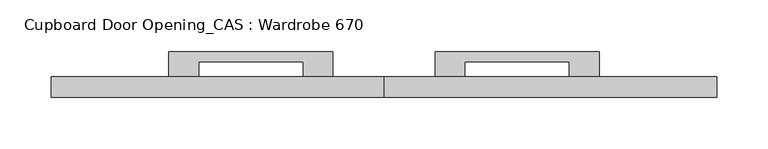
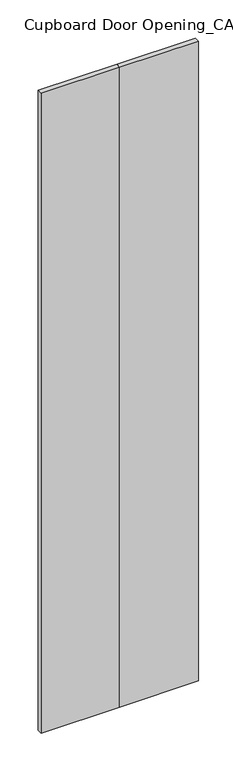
"""IFC4 building model written with IfcOpenShell, lengths in millimetres: furniture geometry, Cupboard Door Opening_CAS : Wardrobe 670."""

from ifc_helpers import new_model, si_unit, frame, origin, origin_with_axes, place, context, project, spatial, polyline, outline, extrude, source, transform, mapped, element, save


def cupboard_door_opening_cas_wardrobe_670_f0b867a1(model_context):
    return source(origin(), model_context, "Body", "SweptSolid", [
        extrude(outline(polyline([(175.0, 84.0), (335.0, 84.0), (335.0, 59.0), (306.0, 59.0), (306.0, 74.0), (204.0, 74.0), (204.0, 59.0), (175.0, 59.0), (175.0, 84.0)])), frame((0.0, 0.0, 987.5), z_axis=(0.0, 0.0, 1.0), x_axis=(1.0, 0.0, 0.0)), (0.0, 0.0, 1.0), 15.0),
        extrude(outline(polyline([(450.0, 59.0), (450.0, 39.0), (125.0, 39.0), (125.0, 59.0), (450.0, 59.0)])), origin_with_axes(), (0.0, 0.0, 1.0), 2795.0),
        extrude(outline(polyline([(75.0, 84.0), (75.0, 59.0), (46.0, 59.0), (46.0, 74.0), (-56.0, 74.0), (-56.0, 59.0), (-85.0, 59.0), (-85.0, 84.0), (75.0, 84.0)])), frame((0.0, 0.0, 987.5), z_axis=(0.0, 0.0, 1.0), x_axis=(1.0, 0.0, 0.0)), (0.0, 0.0, 1.0), 15.0),
        extrude(outline(polyline([(-200.0, 59.0), (125.0, 59.0), (125.0, 39.0), (-200.0, 39.0), (-200.0, 59.0)])), origin_with_axes(), (0.0, 0.0, 1.0), 2795.0),
    ])


if __name__ == "__main__":
    model = new_model("IFC4")
    model_context = context("Model", 3, world=origin())
    ifc_project = project(units=[si_unit("LENGTHUNIT", "METRE", prefix="MILLI")], contexts=[model_context])
    site = spatial("IfcSite", under=ifc_project)
    building = spatial("IfcBuilding", under=site)
    placement = place(None, origin())
    cupboard_door_opening_cas_wardrobe_670_shape = cupboard_door_opening_cas_wardrobe_670_f0b867a1(model_context)
    element("IfcFurniture", 1, ObjectType="Cupboard Door Opening_CAS : Wardrobe 670", at=placement, inside=building, context=model_context, shape_type="MappedRepresentation", body=[
        mapped(cupboard_door_opening_cas_wardrobe_670_shape, transform((0.0, 0.0, 0.0), x_axis=(1.0, 0.0, 0.0), y_axis=(0.0, 1.0, 0.0), z_axis=(0.0, 0.0, 1.0))),
    ])
    save(model, "model.ifc")
